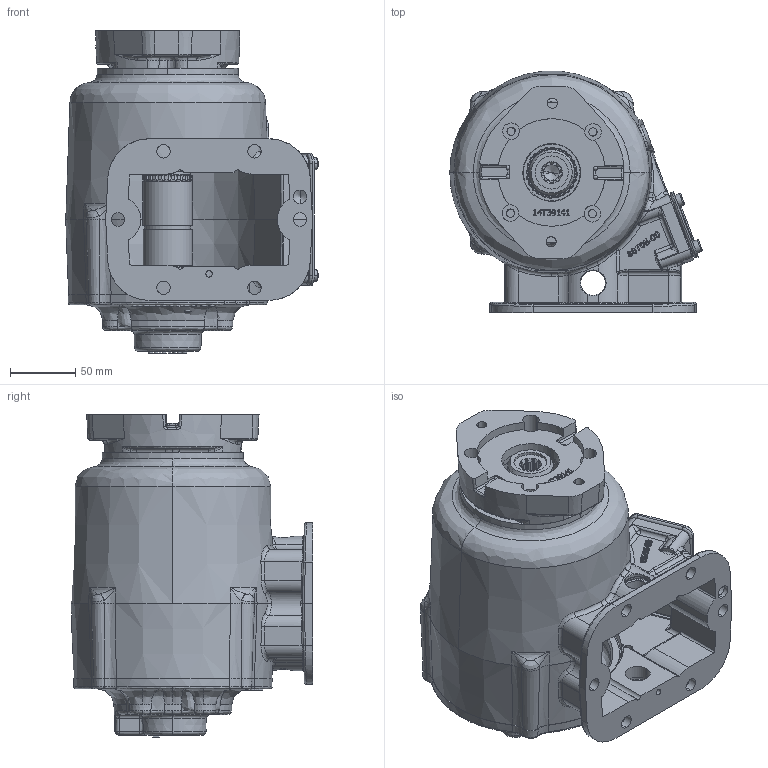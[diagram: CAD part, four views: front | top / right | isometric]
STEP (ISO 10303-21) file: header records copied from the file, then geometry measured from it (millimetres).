
FILE_DESCRIPTION (( 'STEP AP203' ), '1' );
FILE_NAME ('CS6B-A6XXX-H3RX.STEP', '2023-05-19T12:46:51', ( '' ), ( '' ), 'SwSTEP 2.0', 'SolidWorks 2021', '' );
FILE_SCHEMA (( 'CONFIG_CONTROL_DESIGN' ));
Length unit declared in the file: inch
Products named in the file (15): 01T37072-01; 19T36174; 19T41118; 25T21684; 26t36175; 06T38964_06T38964; 16T41119; CS6B-A6XXX-H3RX; 14TA3997; 11T36124-1; 15T36717; 24T36894; 12T34003; 12T36471; 14T39141
Assembly tree (25 placements, depth 3):
  CS6B-A6XXX-H3RX
    01T37072-01
    16T41119
    15T36717
    12T34003
    25T21684  x4
    19T41118  x4
    19T36174  x4
    06T38964_06T38964
    11T36124-1
    24T36894
    26t36175  x2
    12T36471  x2
    14TA3997
      14T39141
Bounding box: 193.76 x 185.25 x 247.66 mm (x, y, z)
Volume: 1456332.2 mm3; surface area: 401132.6 mm2
Topology: 24 solids, 24 shells, 3143 faces, 8060 edges, 5018 vertices
Faces by surface type: bspline 1175, plane 868, cylinder 619, cone 336, torus 132, sphere 13
Entity records: 189243 total; most frequent: CARTESIAN_POINT 124910, ORIENTED_EDGE 14994, DIRECTION 9704, EDGE_CURVE 7497, VERTEX_POINT 4735, AXIS2_PLACEMENT_3D 3568, EDGE_LOOP 3164, B_SPLINE_CURVE_WITH_KNOTS 3044
